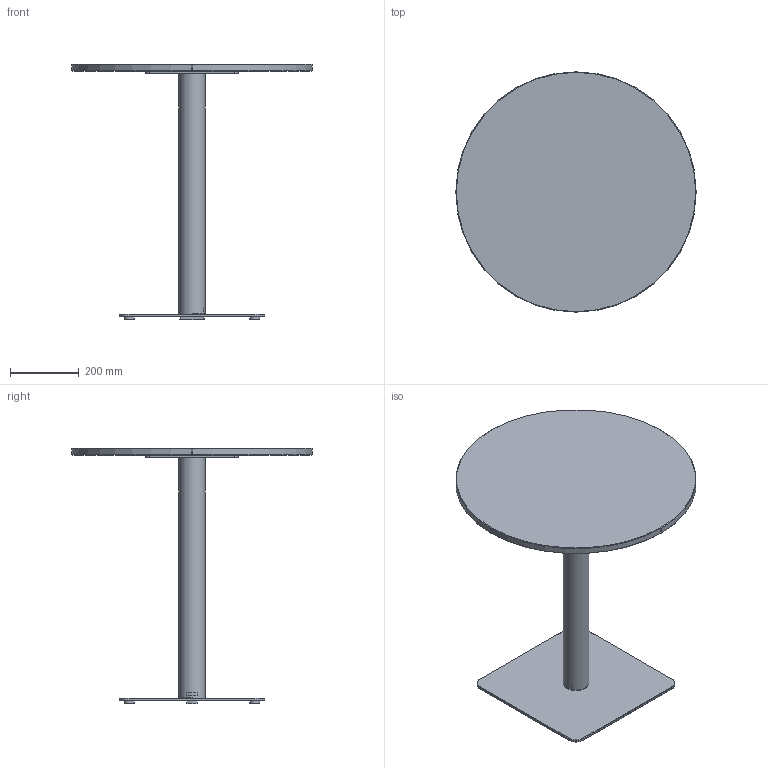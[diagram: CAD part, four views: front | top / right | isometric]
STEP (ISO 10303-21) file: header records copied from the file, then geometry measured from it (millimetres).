
FILE_DESCRIPTION( ('This file contains a STEP AP42 implementation' ,'as created by ZW3D STEP Interface translator.') ,'2;1' );
FILE_NAME( 'Henri - B_Carré - F1 - M1 - 700 x 700 x 750.stp' ,'24 912.161342', (''), ('ZWCAD Software Co.'), 'Version 1.0', 'ZW3D to STEP translator', '' );
FILE_SCHEMA(('AUTOMOTIVE_DESIGN { 1 0 10303 214 1 1 1 1 }'));
Length unit declared in the file: millimetre
Products named in the file (14): 0; PIED BISTROT PARAMETRIQUE_; COLONNE ACIER Ø76 V.02_; TUB-D076-02_; PLA-R76B-01_; CROIX ACIER 370 V.02_; CRX-X370-02_; SOCLE ACIER L 425x425 V.02_; SCL-R425-02_; PLA-R30A-01_; PLA-R30A-01; WUERTH 0276063020 Euro-screw 6.3x2 Verzinkt_; PLATEAU BISTROT PARAMETRIQUE_; insert_m6_13_
Assembly tree (22 placements, depth 3):
  0
  PIED BISTROT PARAMETRIQUE_
    COLONNE ACIER Ø76 V.02_
      TUB-D076-02_
      PLA-R76B-01_  x2
    CROIX ACIER 370 V.02_
      CRX-X370-02_
    SOCLE ACIER L 425x425 V.02_
      SCL-R425-02_
      PLA-R30A-01_
      PLA-R30A-01  x3
    WUERTH 0276063020 Euro-screw 6.3x2 Verzinkt_
    PLATEAU BISTROT PARAMETRIQUE_
      insert_m6_13_  x8
Bounding box: 700 x 700 x 744 mm (x, y, z)
Volume: 10075765 mm3; surface area: 1703702.4 mm2
Topology: 19 solids, 19 shells, 537 faces, 1310 edges, 822 vertices
Faces by surface type: plane 262, bspline 121, cylinder 98, cone 55, torus 1
Full cylindrical faces by diameter (mm): 4.88 x1, 6 x8, 6.3 x1, 8 x45, 12 x2, 14 x2, 30 x4, 72 x1, 76 x1
Entity records: 12310 total; most frequent: CARTESIAN_POINT 3396, ORIENTED_EDGE 1624, DIRECTION 1519, EDGE_CURVE 812, VERTEX_POINT 518, VECTOR 513, LINE 513, AXIS2_PLACEMENT_3D 503
